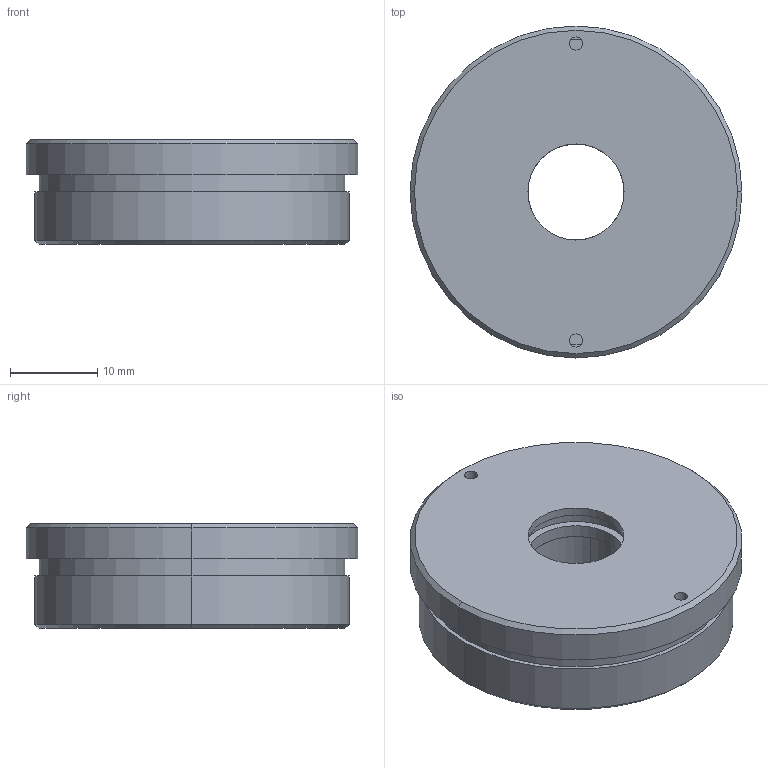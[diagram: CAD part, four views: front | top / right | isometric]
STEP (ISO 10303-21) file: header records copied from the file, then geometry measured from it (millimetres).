
FILE_DESCRIPTION (( 'STEP AP203' ), '1' );
FILE_NAME ('7MA2127变径圈.STEP', '2019-10-24T07:32:22', ( '' ), ( '' ), 'SwSTEP 2.0', 'SolidWorks 2014', '' );
FILE_SCHEMA (( 'CONFIG_CONTROL_DESIGN' ));
Length unit declared in the file: millimetre
Products named in the file (1): 7MA2127变径圈
Bounding box: 38 x 38 x 12 mm (x, y, z)
Surface area: 4373.4 mm2 (no closed solid volume)
Topology: 0 solids, 4 shells, 41 faces, 102 edges, 68 vertices
Faces by surface type: cylinder 20, plane 15, cone 6
Entity records: 1318 total; most frequent: DIRECTION 246, CARTESIAN_POINT 212, ORIENTED_EDGE 178, EDGE_CURVE 102, AXIS2_PLACEMENT_3D 102, VERTEX_POINT 68, CIRCLE 60, EDGE_LOOP 50
